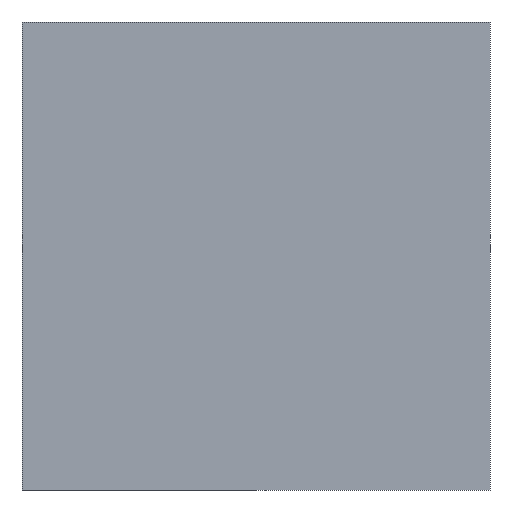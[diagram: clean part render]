
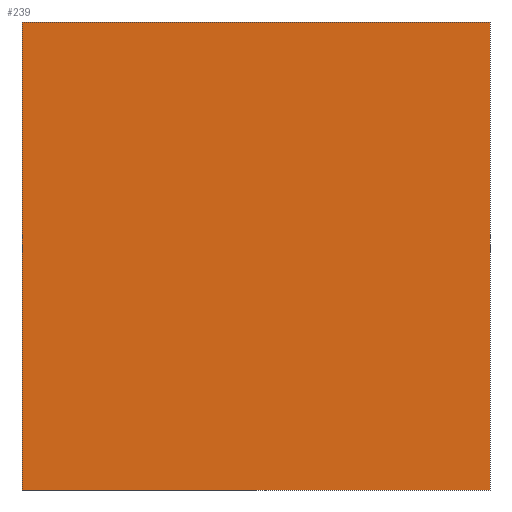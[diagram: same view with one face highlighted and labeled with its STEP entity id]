
A CAD part, left-side view. The second image highlights one B-rep face of the part: STEP entity #239.
In plain terms, the highlighted planar face has unit normal (-1, 0, 0).
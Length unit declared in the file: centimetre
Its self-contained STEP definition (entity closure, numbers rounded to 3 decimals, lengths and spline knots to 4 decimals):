
#2 = VERTEX_POINT ( 'NONE', #18 ) ;
#4 = AXIS2_PLACEMENT_3D ( 'NONE', #153, #73, #289 ) ;
#11 = VECTOR ( 'NONE', #84, 100. ) ;
#12 = CARTESIAN_POINT ( 'NONE',  ( 0., 1000., 0. ) ) ;
#15 = LINE ( 'NONE', #12, #11 ) ;
#18 = CARTESIAN_POINT ( 'NONE',  ( 0., 0., 1000. ) ) ;
#33 = CARTESIAN_POINT ( 'NONE',  ( 0., 0., 1000. ) ) ;
#37 = DIRECTION ( 'NONE',  ( 0., 0., -1. ) ) ;
#40 = LINE ( 'NONE', #294, #116 ) ;
#71 = ORIENTED_EDGE ( 'NONE', *, *, #304, .T. ) ;
#73 = DIRECTION ( 'NONE',  ( 1., 0., 0. ) ) ;
#83 = DIRECTION ( 'NONE',  ( 0., -1., 0. ) ) ;
#84 = DIRECTION ( 'NONE',  ( 0., -1., 0. ) ) ;
#116 = VECTOR ( 'NONE', #260, 100. ) ;
#129 = CARTESIAN_POINT ( 'NONE',  ( 0., 1000., 1000. ) ) ;
#135 = ORIENTED_EDGE ( 'NONE', *, *, #410, .T. ) ;
#153 = CARTESIAN_POINT ( 'NONE',  ( 0., 1000., 1000. ) ) ;
#166 = CARTESIAN_POINT ( 'NONE',  ( 0., 1000., 1000. ) ) ;
#189 = VERTEX_POINT ( 'NONE', #282 ) ;
#192 = ORIENTED_EDGE ( 'NONE', *, *, #406, .F. ) ;
#235 = VECTOR ( 'NONE', #83, 100. ) ;
#239 = ADVANCED_FACE ( 'NONE', ( #479 ), #360, .F. ) ;
#248 = VECTOR ( 'NONE', #37, 100. ) ;
#259 = VERTEX_POINT ( 'NONE', #352 ) ;
#260 = DIRECTION ( 'NONE',  ( 0., 0., -1. ) ) ;
#271 = LINE ( 'NONE', #166, #235 ) ;
#282 = CARTESIAN_POINT ( 'NONE',  ( 0., 1000., 0. ) ) ;
#285 = LINE ( 'NONE', #33, #248 ) ;
#287 = ORIENTED_EDGE ( 'NONE', *, *, #312, .F. ) ;
#289 = DIRECTION ( 'NONE',  ( 0., 0., -1. ) ) ;
#294 = CARTESIAN_POINT ( 'NONE',  ( 0., 1000., 1000. ) ) ;
#304 = EDGE_CURVE ( 'NONE', #447, #189, #40, .T. ) ;
#312 = EDGE_CURVE ( 'NONE', #2, #259, #285, .T. ) ;
#352 = CARTESIAN_POINT ( 'NONE',  ( 0., 0., 0. ) ) ;
#360 = PLANE ( 'NONE',  #4 ) ;
#361 = EDGE_LOOP ( 'NONE', ( #135, #287, #192, #71 ) ) ;
#406 = EDGE_CURVE ( 'NONE', #447, #2, #271, .T. ) ;
#410 = EDGE_CURVE ( 'NONE', #189, #259, #15, .T. ) ;
#447 = VERTEX_POINT ( 'NONE', #129 ) ;
#479 = FACE_OUTER_BOUND ( 'NONE', #361, .T. ) ;
